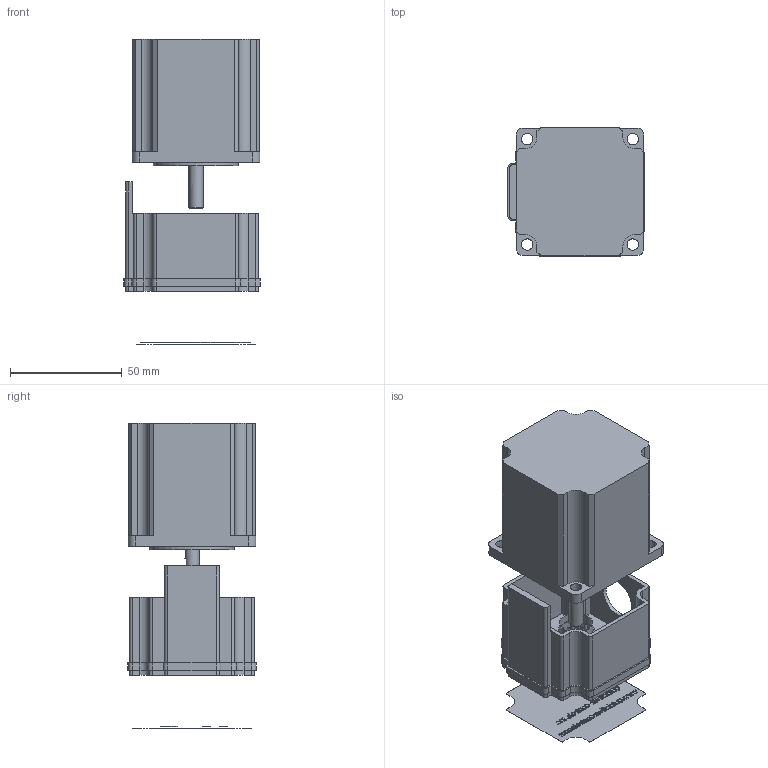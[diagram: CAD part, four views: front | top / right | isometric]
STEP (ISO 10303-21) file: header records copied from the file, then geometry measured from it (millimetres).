
FILE_DESCRIPTION(/* description */ ('Alibre Inc.'),/* implementation_level */ '2;1');
FILE_NAME(/* name */ 'export0',/* time_stamp */ '2008-02-05T10:42:25-08:00',/* author */ (''),/* organization */ (''),/* preprocessor_version */ 'ST-DEVELOPER v10',/* originating_system */ 'Alibre',/* authorisation */ '');
FILE_SCHEMA (('ALIBRE_SCHEMA','CONFIG_CONTROL_DESIGN'));
Length unit declared in the file: centimetre
Products named in the file (8): ID_1; ID_2
Bounding box: 60.96 x 57.4 x 136.81 mm (x, y, z)
Volume: 187010 mm3; surface area: 49745.7 mm2
Topology: 62 solids, 62 shells, 1256 faces, 3297 edges, 2184 vertices
Faces by surface type: bspline 573, plane 561, cylinder 121, cone 1
Full cylindrical faces by diameter (mm): 1.216 x14, 5.08 x4, 6.35 x2, 8.89 x1, 14.732 x1, 15.24 x1, 16 x1, 19.99 x1, 38.1 x1
Entity records: 70599 total; most frequent: CARTESIAN_POINT 18033, ORIENTED_EDGE 6598, CONSTRAINTPAIRUV 4798, DIRECTION 4236, EDGE_CURVE 3268, REFERENCEPOINTUV 2930, PERSISTANTTOPOLOGYATTRIBUTE 2891, VECTOR 2815
